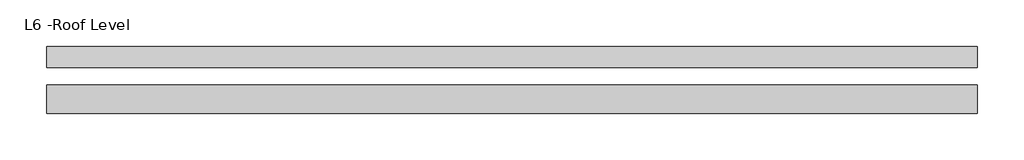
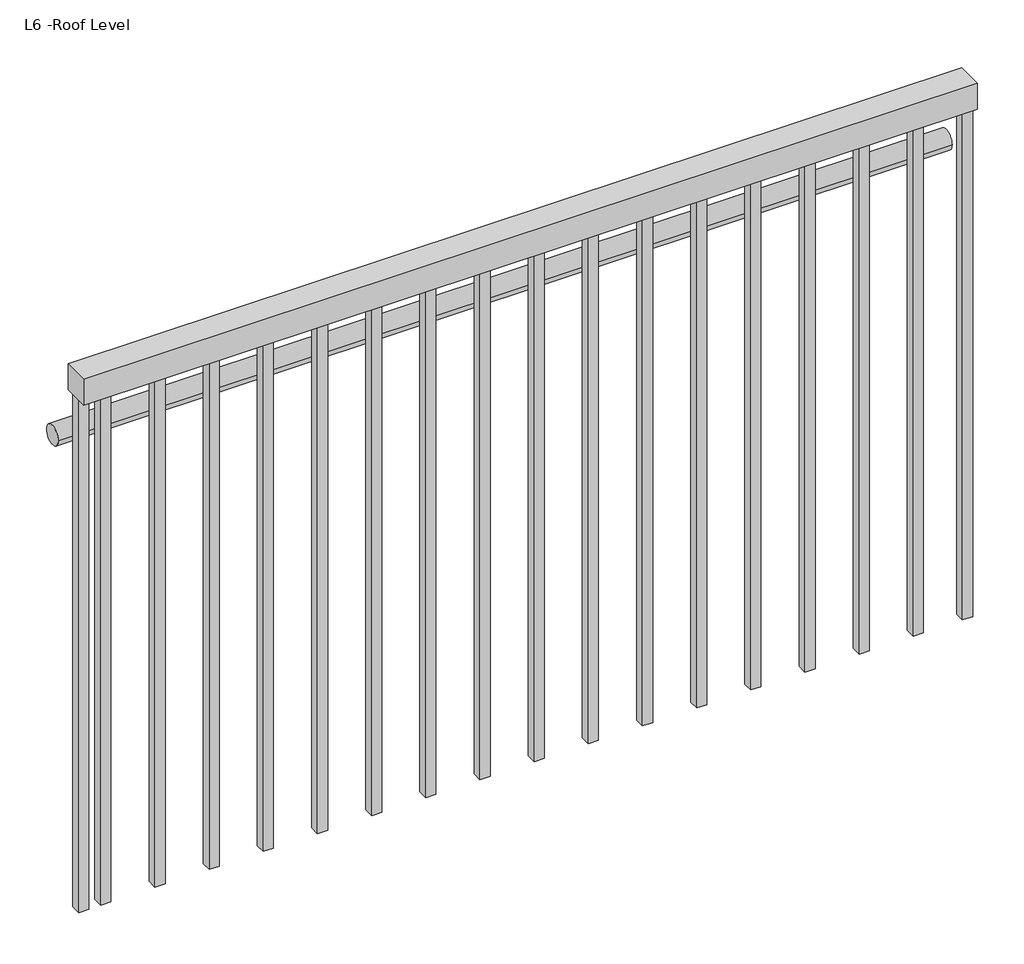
# One storey: 1 railing.
"""IFC4 building model written with IfcOpenShell, lengths in millimetres."""

from ifc_helpers import new_model, si_unit, point, frame, frame_2d, origin, place, context, project, spatial, polyline, circle_curve, trimmed, segment, composite_curve, outline, extrude, element, save

model = new_model("IFC4")

# Units and contexts
model_context = context("Model", 3, world=origin())
ifc_project = project(units=[si_unit("LENGTHUNIT", "METRE", prefix="MILLI")], contexts=[model_context])

# Site, building, storey
site = spatial("IfcSite", under=ifc_project)
building = spatial("IfcBuilding", under=site)
storey = spatial("IfcBuildingStorey", under=building, Name="L6 -Roof Level", Elevation=9093.2)

# Railing
placement = place(None, origin())
element("IfcRailing", 1, ObjectType="Guardrail - Rectangular", at=placement, inside=storey, context=model_context, shape_type="SweptSolid", body=[
    extrude(outline(composite_curve([segment(trimmed(circle_curve(frame_2d((4338.0338219, 9988.55)), 19.05), [point((4357.0838219, 9988.55))], [point((4318.9838219, 9988.55))], False, "CARTESIAN"), True, "CONTINUOUS"), segment(trimmed(circle_curve(frame_2d((4338.0338219, 9988.55)), 19.05), [point((4318.9838219, 9988.55))], [point((4357.0838219, 9988.55))], False, "CARTESIAN"), True, "CONTINUOUS")], self_intersect=False)), frame((16135.3560672, 0.0, 0.0), z_axis=(1.0, 0.0, 0.0), x_axis=(0.0, 1.0, 0.0)), (0.0, 0.0, 1.0), 1676.4),
    extrude(outline(polyline([(17811.7560672, 4287.2338219), (17811.7560672, 4236.4338219), (16135.3560672, 4236.4338219), (16135.3560672, 4287.2338219), (17811.7560672, 4287.2338219)])), frame((0.0, 0.0, 10109.2), z_axis=(0.0, 0.0, 1.0), x_axis=(1.0, 0.0, 0.0)), (0.0, 0.0, 1.0), 50.8),
    extrude(outline(polyline([(16195.6810672, 4252.3088219), (16176.6310672, 4252.3088219), (16176.6310672, 4271.3588219), (16195.6810672, 4271.3588219), (16195.6810672, 4252.3088219)])), frame((0.0, 0.0, 9093.2), z_axis=(0.0, 0.0, 1.0), x_axis=(1.0, 0.0, 0.0)), (0.0, 0.0, 1.0), 1016.0),
    extrude(outline(polyline([(16297.2810672, 4252.3088219), (16278.2310672, 4252.3088219), (16278.2310672, 4271.3588219), (16297.2810672, 4271.3588219), (16297.2810672, 4252.3088219)])), frame((0.0, 0.0, 9093.2), z_axis=(0.0, 0.0, 1.0), x_axis=(1.0, 0.0, 0.0)), (0.0, 0.0, 1.0), 1016.0),
    extrude(outline(polyline([(16398.8810672, 4252.3088219), (16379.8310672, 4252.3088219), (16379.8310672, 4271.3588219), (16398.8810672, 4271.3588219), (16398.8810672, 4252.3088219)])), frame((0.0, 0.0, 9093.2), z_axis=(0.0, 0.0, 1.0), x_axis=(1.0, 0.0, 0.0)), (0.0, 0.0, 1.0), 1016.0),
    extrude(outline(polyline([(16500.4810672, 4252.3088219), (16481.4310672, 4252.3088219), (16481.4310672, 4271.3588219), (16500.4810672, 4271.3588219), (16500.4810672, 4252.3088219)])), frame((0.0, 0.0, 9093.2), z_axis=(0.0, 0.0, 1.0), x_axis=(1.0, 0.0, 0.0)), (0.0, 0.0, 1.0), 1016.0),
    extrude(outline(polyline([(16602.0810672, 4252.3088219), (16583.0310672, 4252.3088219), (16583.0310672, 4271.3588219), (16602.0810672, 4271.3588219), (16602.0810672, 4252.3088219)])), frame((0.0, 0.0, 9093.2), z_axis=(0.0, 0.0, 1.0), x_axis=(1.0, 0.0, 0.0)), (0.0, 0.0, 1.0), 1016.0),
    extrude(outline(polyline([(16703.6810672, 4252.3088219), (16684.6310672, 4252.3088219), (16684.6310672, 4271.3588219), (16703.6810672, 4271.3588219), (16703.6810672, 4252.3088219)])), frame((0.0, 0.0, 9093.2), z_axis=(0.0, 0.0, 1.0), x_axis=(1.0, 0.0, 0.0)), (0.0, 0.0, 1.0), 1016.0),
    extrude(outline(polyline([(16805.2810672, 4252.3088219), (16786.2310672, 4252.3088219), (16786.2310672, 4271.3588219), (16805.2810672, 4271.3588219), (16805.2810672, 4252.3088219)])), frame((0.0, 0.0, 9093.2), z_axis=(0.0, 0.0, 1.0), x_axis=(1.0, 0.0, 0.0)), (0.0, 0.0, 1.0), 1016.0),
    extrude(outline(polyline([(16906.8810672, 4252.3088219), (16887.8310672, 4252.3088219), (16887.8310672, 4271.3588219), (16906.8810672, 4271.3588219), (16906.8810672, 4252.3088219)])), frame((0.0, 0.0, 9093.2), z_axis=(0.0, 0.0, 1.0), x_axis=(1.0, 0.0, 0.0)), (0.0, 0.0, 1.0), 1016.0),
    extrude(outline(polyline([(17008.4810672, 4252.3088219), (16989.4310672, 4252.3088219), (16989.4310672, 4271.3588219), (17008.4810672, 4271.3588219), (17008.4810672, 4252.3088219)])), frame((0.0, 0.0, 9093.2), z_axis=(0.0, 0.0, 1.0), x_axis=(1.0, 0.0, 0.0)), (0.0, 0.0, 1.0), 1016.0),
    extrude(outline(polyline([(17110.0810672, 4252.3088219), (17091.0310672, 4252.3088219), (17091.0310672, 4271.3588219), (17110.0810672, 4271.3588219), (17110.0810672, 4252.3088219)])), frame((0.0, 0.0, 9093.2), z_axis=(0.0, 0.0, 1.0), x_axis=(1.0, 0.0, 0.0)), (0.0, 0.0, 1.0), 1016.0),
    extrude(outline(polyline([(17211.6810672, 4252.3088219), (17192.6310672, 4252.3088219), (17192.6310672, 4271.3588219), (17211.6810672, 4271.3588219), (17211.6810672, 4252.3088219)])), frame((0.0, 0.0, 9093.2), z_axis=(0.0, 0.0, 1.0), x_axis=(1.0, 0.0, 0.0)), (0.0, 0.0, 1.0), 1016.0),
    extrude(outline(polyline([(17313.2810672, 4252.3088219), (17294.2310672, 4252.3088219), (17294.2310672, 4271.3588219), (17313.2810672, 4271.3588219), (17313.2810672, 4252.3088219)])), frame((0.0, 0.0, 9093.2), z_axis=(0.0, 0.0, 1.0), x_axis=(1.0, 0.0, 0.0)), (0.0, 0.0, 1.0), 1016.0),
    extrude(outline(polyline([(17414.8810672, 4252.3088219), (17395.8310672, 4252.3088219), (17395.8310672, 4271.3588219), (17414.8810672, 4271.3588219), (17414.8810672, 4252.3088219)])), frame((0.0, 0.0, 9093.2), z_axis=(0.0, 0.0, 1.0), x_axis=(1.0, 0.0, 0.0)), (0.0, 0.0, 1.0), 1016.0),
    extrude(outline(polyline([(17516.4810672, 4252.3088219), (17497.4310672, 4252.3088219), (17497.4310672, 4271.3588219), (17516.4810672, 4271.3588219), (17516.4810672, 4252.3088219)])), frame((0.0, 0.0, 9093.2), z_axis=(0.0, 0.0, 1.0), x_axis=(1.0, 0.0, 0.0)), (0.0, 0.0, 1.0), 1016.0),
    extrude(outline(polyline([(17618.0810672, 4252.3088219), (17599.0310672, 4252.3088219), (17599.0310672, 4271.3588219), (17618.0810672, 4271.3588219), (17618.0810672, 4252.3088219)])), frame((0.0, 0.0, 9093.2), z_axis=(0.0, 0.0, 1.0), x_axis=(1.0, 0.0, 0.0)), (0.0, 0.0, 1.0), 1016.0),
    extrude(outline(polyline([(17719.6810672, 4252.3088219), (17700.6310672, 4252.3088219), (17700.6310672, 4271.3588219), (17719.6810672, 4271.3588219), (17719.6810672, 4252.3088219)])), frame((0.0, 0.0, 9093.2), z_axis=(0.0, 0.0, 1.0), x_axis=(1.0, 0.0, 0.0)), (0.0, 0.0, 1.0), 1016.0),
    extrude(outline(polyline([(16154.4060672, 4252.3088219), (16135.3560672, 4252.3088219), (16135.3560672, 4271.3588219), (16154.4060672, 4271.3588219), (16154.4060672, 4252.3088219)])), frame((0.0, 0.0, 9093.2), z_axis=(0.0, 0.0, 1.0), x_axis=(1.0, 0.0, 0.0)), (0.0, 0.0, 1.0), 1016.0),
    extrude(outline(polyline([(17811.7560672, 4252.3088219), (17792.7060672, 4252.3088219), (17792.7060672, 4271.3588219), (17811.7560672, 4271.3588219), (17811.7560672, 4252.3088219)])), frame((0.0, 0.0, 9093.2), z_axis=(0.0, 0.0, 1.0), x_axis=(1.0, 0.0, 0.0)), (0.0, 0.0, 1.0), 1016.0),
])

save(model, "model.ifc")
